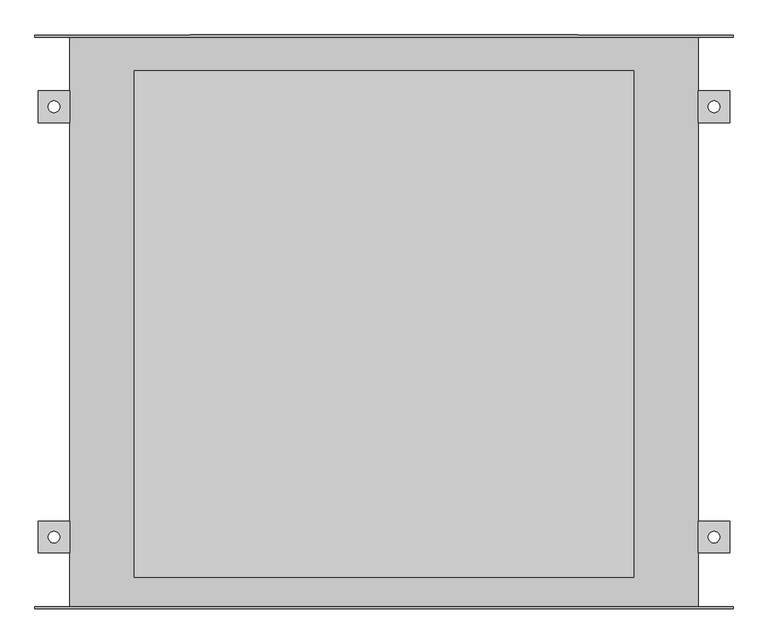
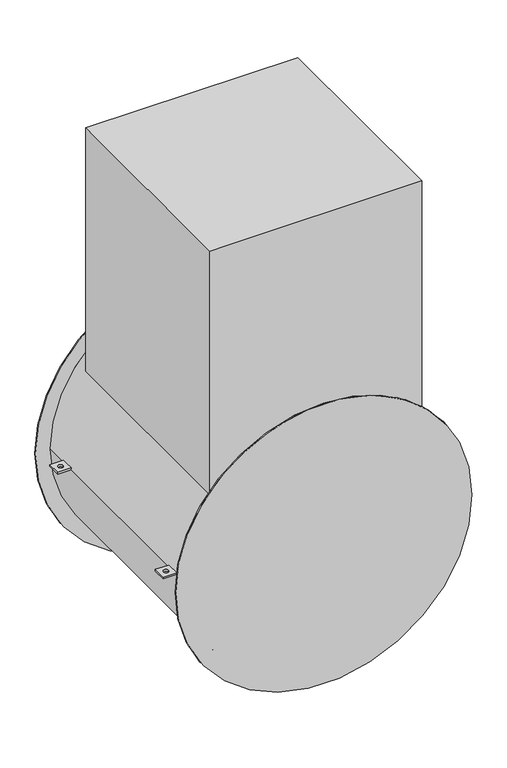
"""IFC4 building model written with IfcOpenShell, lengths in millimetres: proxy geometry, AFB-S_Horizontal_Ceiling_Mount : 36_AFB-S_HOR_CEILING."""

from ifc_helpers import new_model, si_unit, point, frame, frame_2d, origin, origin_with_axes, place, context, project, spatial, polyline, circle_curve, trimmed, segment, composite_curve, outline, extrude, source, transform, mapped, element, save
from ifc_brep_helpers import plane_surface, cylinder_surface, advanced_brep


def mechanical_equipment_23de367c(model_context):
    return source(origin(), model_context, "Body", "SolidModel", [
        extrude(outline(polyline([(530.997472, -347.6625), (483.372472, -347.6625), (483.372472, -300.0375), (530.997472, -300.0375), (530.997472, -347.6625)]), holes=[composite_curve([segment(trimmed(circle_curve(frame_2d((507.184972, -323.85)), 8.73125), [point((498.453722, -323.85))], [point((515.916222, -323.85))], True, "CARTESIAN"), True, "CONTINUOUS"), segment(trimmed(circle_curve(frame_2d((507.184972, -323.85)), 8.73125), [point((515.916222, -323.85))], [point((498.453722, -323.85))], True, "CARTESIAN"), True, "CONTINUOUS")], self_intersect=False)]), origin_with_axes(), (0.0, 0.0, 1.0), 6.35),
        extrude(outline(polyline([(530.997472, 347.6625), (530.997472, 300.0375), (483.372472, 300.0375), (483.372472, 347.6625), (530.997472, 347.6625)]), holes=[composite_curve([segment(trimmed(circle_curve(frame_2d((507.184972, 323.85)), 8.73125), [point((498.453722, 323.85))], [point((515.916222, 323.85))], True, "CARTESIAN"), True, "CONTINUOUS"), segment(trimmed(circle_curve(frame_2d((507.184972, 323.85)), 8.73125), [point((515.916222, 323.85))], [point((498.453722, 323.85))], True, "CARTESIAN"), True, "CONTINUOUS")], self_intersect=False)]), origin_with_axes(), (0.0, 0.0, 1.0), 6.35),
        extrude(outline(polyline([(-510.402528, 347.6625), (-462.777528, 347.6625), (-462.777528, 300.0375), (-510.402528, 300.0375), (-510.402528, 347.6625)]), holes=[composite_curve([segment(trimmed(circle_curve(frame_2d((-486.590028, 323.85)), 8.73125), [point((-495.321278, 323.85))], [point((-477.858778, 323.85))], True, "CARTESIAN"), True, "CONTINUOUS"), segment(trimmed(circle_curve(frame_2d((-486.590028, 323.85)), 8.73125), [point((-477.858778, 323.85))], [point((-495.321278, 323.85))], True, "CARTESIAN"), True, "CONTINUOUS")], self_intersect=False)]), origin_with_axes(), (0.0, 0.0, 1.0), 6.35),
        extrude(outline(polyline([(-510.402528, -347.6625), (-510.402528, -300.0375), (-462.777528, -300.0375), (-462.777528, -347.6625), (-510.402528, -347.6625)]), holes=[composite_curve([segment(trimmed(circle_curve(frame_2d((-486.590028, -323.85)), 8.73125), [point((-495.321278, -323.85))], [point((-477.858778, -323.85))], True, "CARTESIAN"), True, "CONTINUOUS"), segment(trimmed(circle_curve(frame_2d((-486.590028, -323.85)), 8.73125), [point((-477.858778, -323.85))], [point((-495.321278, -323.85))], True, "CARTESIAN"), True, "CONTINUOUS")], self_intersect=False)]), origin_with_axes(), (0.0, 0.0, 1.0), 6.35),
        extrude(outline(composite_curve([segment(polyline([(287.2004687, 386.217472), (1200.15, 386.217472), (1200.15, -365.622528), (287.2004687, -365.622528)]), True, "CONTINUOUS"), segment(trimmed(circle_curve(frame_2d((0.0, 10.297472)), 473.075), [point((287.2004687, -365.622528))], [point((287.2004687, 386.217472))], True, "CARTESIAN"), True, "CONTINUOUS")], self_intersect=False)), frame((0.0, -384.175, 0.0), z_axis=(0.0, 1.0, 0.0), x_axis=(0.0, 0.0, 1.0)), (0.0, 0.0, 1.0), 762.0),
        advanced_brep(
        [(-515.165028, 431.8, 0.0), (535.759972, 431.8, 0.0), (-515.165028, -431.8, 0.0), (535.759972, -431.8, 0.0), (535.759972, 428.625, 0.0), (-515.165028, 428.625, 0.0), (-515.165028, -428.625, 0.0), (535.759972, -428.625, 0.0), (-462.777528, 428.625, 0.0), (483.372472, 428.625, 0.0), (-462.777528, -428.625, 0.0), (483.372472, -428.625, 0.0)],
        [
            (0, 1, circle_curve(frame((10.297472, 431.8, 0.0), z_axis=(0.0, 1.0, 0.0), x_axis=(1.0, 0.0, 0.0)), 525.4625)),
            (1, 0, circle_curve(frame((10.297472, 431.8, 0.0), z_axis=(0.0, 1.0, 0.0), x_axis=(1.0, 0.0, 0.0)), 525.4625)),
            (2, 3, circle_curve(frame((10.297472, -431.8, 0.0), z_axis=(0.0, -1.0, 0.0), x_axis=(1.0, 0.0, 0.0)), 525.4625)),
            (3, 2, circle_curve(frame((10.297472, -431.8, 0.0), z_axis=(0.0, -1.0, 0.0), x_axis=(1.0, 0.0, 0.0)), 525.4625)),
            (1, 4),
            (4, 5, circle_curve(frame((10.297472, 428.625, 0.0), z_axis=(0.0, 1.0, 0.0), x_axis=(1.0, 0.0, 0.0)), 525.4625)),
            (5, 0),
            (2, 6),
            (6, 7, circle_curve(frame((10.297472, -428.625, 0.0), z_axis=(0.0, -1.0, 0.0), x_axis=(1.0, 0.0, 0.0)), 525.4625)),
            (7, 3),
            (5, 4, circle_curve(frame((10.297472, 428.625, 0.0), z_axis=(0.0, 1.0, 0.0), x_axis=(1.0, 0.0, 0.0)), 525.4625)),
            (7, 6, circle_curve(frame((10.297472, -428.625, 0.0), z_axis=(0.0, -1.0, 0.0), x_axis=(1.0, 0.0, 0.0)), 525.4625)),
            (8, 9, circle_curve(frame((10.297472, 428.625, 0.0), z_axis=(0.0, 1.0, 0.0), x_axis=(1.0, 0.0, 0.0)), 473.075)),
            (9, 8, circle_curve(frame((10.297472, 428.625, 0.0), z_axis=(0.0, 1.0, 0.0), x_axis=(1.0, 0.0, 0.0)), 473.075)),
            (10, 11, circle_curve(frame((10.297472, -428.625, 0.0), z_axis=(0.0, -1.0, 0.0), x_axis=(1.0, 0.0, 0.0)), 473.075)),
            (11, 10, circle_curve(frame((10.297472, -428.625, 0.0), z_axis=(0.0, -1.0, 0.0), x_axis=(1.0, 0.0, 0.0)), 473.075)),
            (8, 10),
            (11, 9),
        ],
        [
            plane_surface(frame((535.759972, 431.8, 0.0), z_axis=(0.0, 1.0, 0.0), x_axis=(0.0, 0.0, 1.0))),
            plane_surface(frame((535.759972, -431.8, 0.0), z_axis=(0.0, -1.0, 0.0), x_axis=(0.0, 0.0, -1.0))),
            cylinder_surface(frame((10.297472, -431.8, 0.0), z_axis=(0.0, 1.0, 0.0), x_axis=(1.0, 0.0, 0.0)), 525.4625),
            plane_surface(frame((535.759972, 428.625, 0.0), z_axis=(0.0, -1.0, 0.0), x_axis=(0.0, 0.0, 1.0))),
            plane_surface(frame((535.759972, -428.625, 0.0), z_axis=(0.0, 1.0, 0.0), x_axis=(0.0, 0.0, -1.0))),
            cylinder_surface(frame((10.297472, 0.0, 0.0), z_axis=(0.0, -1.0, 0.0), x_axis=(1.0, 0.0, 0.0)), 473.075),
        ],
        [
            (0, [[1, 2]]),
            (1, [[3, 4]]),
            (2, [[5, 6, 7, -2]]),
            (2, [[8, 9, 10, -3]]),
            (2, [[-7, 11, -5, -1]]),
            (2, [[-10, 12, -8, -4]]),
            (3, [[-11, -6], [13, 14]]),
            (4, [[-12, -9], [15, 16]]),
            (5, [[17, -16, 18, -13]]),
            (5, [[-18, -15, -17, -14]]),
        ],
    ),
    ])


if __name__ == "__main__":
    model = new_model("IFC4")
    model_context = context("Model", 3, world=origin())
    ifc_project = project(units=[si_unit("LENGTHUNIT", "METRE", prefix="MILLI")], contexts=[model_context])
    site = spatial("IfcSite", under=ifc_project)
    building = spatial("IfcBuilding", under=site)
    placement = place(None, origin())
    mechanical_equipment_shape = mechanical_equipment_23de367c(model_context)
    element("IfcBuildingElementProxy", 1, Name="AFB-S_Horizontal_Ceiling_Mount : 36_AFB-S_HOR_CEILING", ObjectType="AFB-S_Horizontal_Ceiling_Mount : 36_AFB-S_HOR_CEILING", at=placement, inside=building, context=model_context, shape_type="MappedRepresentation", body=[
        mapped(mechanical_equipment_shape, transform((0.0, 0.0, 0.0), x_axis=(1.0, 0.0, 0.0), y_axis=(0.0, 1.0, 0.0), z_axis=(0.0, 0.0, 1.0))),
    ])
    save(model, "model.ifc")
